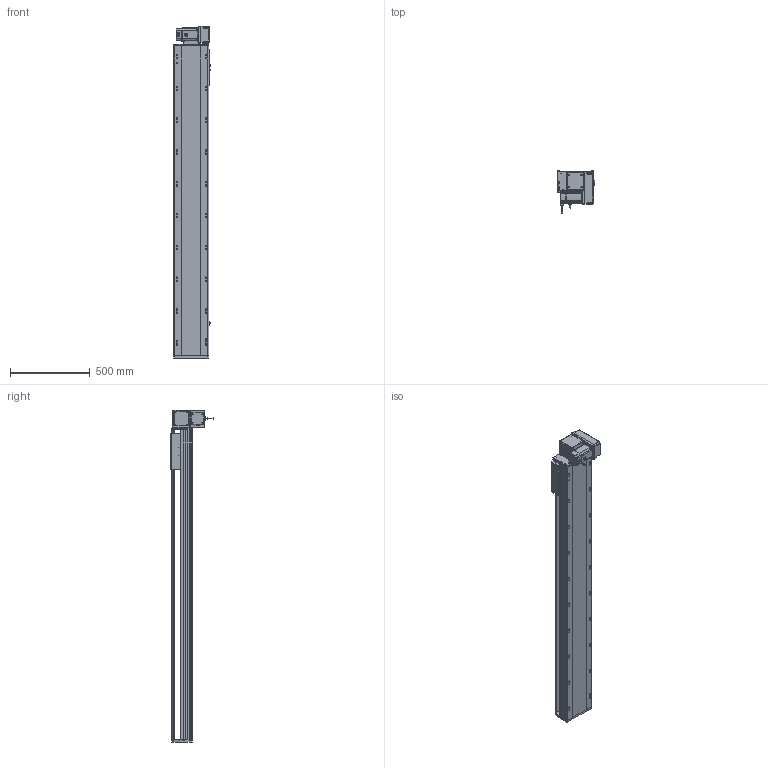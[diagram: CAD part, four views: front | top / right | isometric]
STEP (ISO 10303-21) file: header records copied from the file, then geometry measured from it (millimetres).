
FILE_DESCRIPTION (( 'STEP AP214' ), '1' );
FILE_NAME ('RTB22S-XX-1600-RM-M75-C4.STEP', '2025-12-12T07:50:50', ( '' ), ( '' ), 'SwSTEP 2.0', 'SolidWorks 2018', '' );
FILE_SCHEMA (( 'AUTOMOTIVE_DESIGN' ));
Length unit declared in the file: millimetre
Products named in the file (14): OMRON EE-SX672 传感器^RTB22S-XX-XX-RM-M75-C4; RTB22S-L-011菁釱^RTB22S-XX-XX-RM-M75-C4; RTB22S-GY-001耜裔^RTB22S-XX-XX-RM-M75-C4; RTB22S-RM-々湍釱蚾饜^RTB22S-XX-XX-RM-M75-C4; RTB22S-GY-008-M75--萇儂啣^RTB22S-RM-々湍釱蚾饜_RTB22S-XX-XX-RM-M75-C4; RTB22S-GY-017P^RTB22S-RM-々湍釱蚾饜_RTB22S-XX-XX-RM-M75-C4; RTB22S-L-004賑釱^RTB22S-XX-XX-RM-M75-C4; RTB22S-XX-1600-RM-M75-C4; 750W萇儂^RTB22S-XX-XX-RM-M75-C4; RTB22S-GY-018P^RTB22S-RM-々湍釱蚾饜_RTB22S-XX-XX-RM-M75-C4; RTB22S-GY-005P^RTB22S-RM-々湍釱蚾饜_RTB22S-XX-XX-RM-M75-C4; RTB22S-GY-007奻裔^RTB22S-XX-XX-RM-M75-C4; RTH22-GY-013外置感应片^RTB22S-XX-XX-RM-M75-C4; RTB22S-GY-014--々湍釱^RTB22S-RM-々湍釱蚾饜_RTB22S-XX-XX-RM-M75-C4
Assembly tree (16 placements, depth 3):
  RTB22S-XX-1600-RM-M75-C4
    RTB22S-L-011菁釱^RTB22S-XX-XX-RM-M75-C4
    RTB22S-GY-001耜裔^RTB22S-XX-XX-RM-M75-C4
    750W萇儂^RTB22S-XX-XX-RM-M75-C4
    RTB22S-GY-007奻裔^RTB22S-XX-XX-RM-M75-C4
    RTB22S-L-004賑釱^RTB22S-XX-XX-RM-M75-C4
    RTH22-GY-013外置感应片^RTB22S-XX-XX-RM-M75-C4
    OMRON EE-SX672 传感器^RTB22S-XX-XX-RM-M75-C4  x3
    RTB22S-RM-々湍釱蚾饜^RTB22S-XX-XX-RM-M75-C4
      RTB22S-GY-014--々湍釱^RTB22S-RM-々湍釱蚾饜_RTB22S-XX-XX-RM-M75-C4
      RTB22S-GY-017P^RTB22S-RM-々湍釱蚾饜_RTB22S-XX-XX-RM-M75-C4  x2
      RTB22S-GY-005P^RTB22S-RM-々湍釱蚾饜_RTB22S-XX-XX-RM-M75-C4
      RTB22S-GY-008-M75--萇儂啣^RTB22S-RM-々湍釱蚾饜_RTB22S-XX-XX-RM-M75-C4
      RTB22S-GY-018P^RTB22S-RM-々湍釱蚾饜_RTB22S-XX-XX-RM-M75-C4
Bounding box: 238.5 x 264.7 x 2087.5 mm (x, y, z)
Volume: 28283003.8 mm3; surface area: 2914140 mm2
Topology: 15 solids, 15 shells, 2019 faces, 5486 edges, 3512 vertices
Faces by surface type: plane 919, cylinder 646, bspline 296, cone 146, sphere 8, torus 4
Entity records: 54084 total; most frequent: CARTESIAN_POINT 15468, ORIENTED_EDGE 7744, DIRECTION 7486, EDGE_CURVE 3872, AXIS2_PLACEMENT_3D 2654, VERTEX_POINT 2516, VECTOR 2178, LINE 2178
